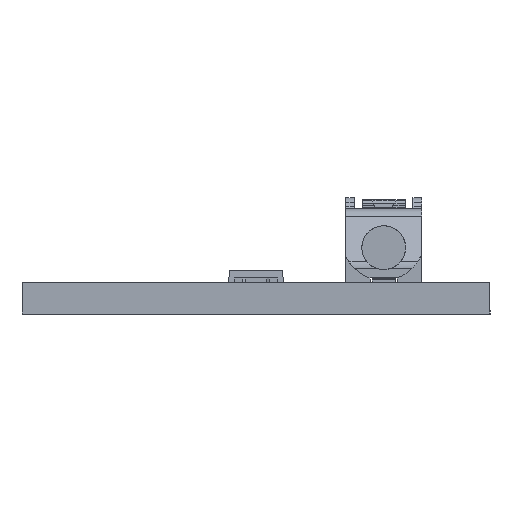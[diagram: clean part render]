
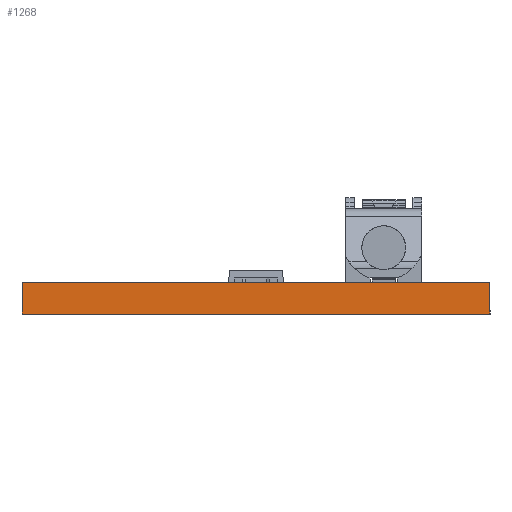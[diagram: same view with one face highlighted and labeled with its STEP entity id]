
A CAD part, left-side view. The second image highlights one B-rep face of the part: STEP entity #1268.
In plain terms, the highlighted planar face has unit normal (-1, 0, 0).
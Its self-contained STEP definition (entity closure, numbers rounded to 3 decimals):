
#180 = VECTOR ( 'NONE', #4896, 1000. ) ;
#219 = EDGE_CURVE ( 'NONE', #2262, #4164, #3266, .T. ) ;
#432 = VECTOR ( 'NONE', #1891, 1000. ) ;
#503 = CARTESIAN_POINT ( 'NONE',  ( 0., 0., 0. ) ) ;
#558 = CARTESIAN_POINT ( 'NONE',  ( 0., 24., 1.6 ) ) ;
#700 = AXIS2_PLACEMENT_3D ( 'NONE', #2024, #2650, #6916 ) ;
#729 = FACE_OUTER_BOUND ( 'NONE', #2206, .T. ) ;
#1018 = CARTESIAN_POINT ( 'NONE',  ( 0., 24., 0. ) ) ;
#1159 = ORIENTED_EDGE ( 'NONE', *, *, #6807, .T. ) ;
#1268 = ADVANCED_FACE ( 'NONE', ( #729 ), #5741, .F. ) ;
#1296 = VECTOR ( 'NONE', #1926, 1000. ) ;
#1445 = LINE ( 'NONE', #2178, #4559 ) ;
#1459 = CARTESIAN_POINT ( 'NONE',  ( 0., 24., 1.6 ) ) ;
#1483 = LINE ( 'NONE', #5641, #1296 ) ;
#1891 = DIRECTION ( 'NONE',  ( 0., -1., 0. ) ) ;
#1926 = DIRECTION ( 'NONE',  ( 0., 0., -1. ) ) ;
#2024 = CARTESIAN_POINT ( 'NONE',  ( 0., 0., 1.6 ) ) ;
#2061 = LINE ( 'NONE', #4395, #432 ) ;
#2178 = CARTESIAN_POINT ( 'NONE',  ( 0., 0., 1.6 ) ) ;
#2206 = EDGE_LOOP ( 'NONE', ( #1159, #3778, #4210, #4574 ) ) ;
#2262 = VERTEX_POINT ( 'NONE', #1459 ) ;
#2509 = VERTEX_POINT ( 'NONE', #503 ) ;
#2650 = DIRECTION ( 'NONE',  ( 1., 0., 0. ) ) ;
#3266 = LINE ( 'NONE', #558, #180 ) ;
#3778 = ORIENTED_EDGE ( 'NONE', *, *, #5205, .F. ) ;
#4164 = VERTEX_POINT ( 'NONE', #1018 ) ;
#4202 = CARTESIAN_POINT ( 'NONE',  ( 0., 0., 1.6 ) ) ;
#4210 = ORIENTED_EDGE ( 'NONE', *, *, #7506, .F. ) ;
#4395 = CARTESIAN_POINT ( 'NONE',  ( 0., 0., 0. ) ) ;
#4559 = VECTOR ( 'NONE', #5279, 1000. ) ;
#4574 = ORIENTED_EDGE ( 'NONE', *, *, #219, .T. ) ;
#4896 = DIRECTION ( 'NONE',  ( 0., 0., -1. ) ) ;
#5205 = EDGE_CURVE ( 'NONE', #6538, #2509, #1483, .T. ) ;
#5279 = DIRECTION ( 'NONE',  ( 0., -1., 0. ) ) ;
#5641 = CARTESIAN_POINT ( 'NONE',  ( 0., 0., 1.6 ) ) ;
#5741 = PLANE ( 'NONE',  #700 ) ;
#6538 = VERTEX_POINT ( 'NONE', #4202 ) ;
#6807 = EDGE_CURVE ( 'NONE', #4164, #2509, #2061, .T. ) ;
#6916 = DIRECTION ( 'NONE',  ( 0., 0., -1. ) ) ;
#7506 = EDGE_CURVE ( 'NONE', #2262, #6538, #1445, .T. ) ;
